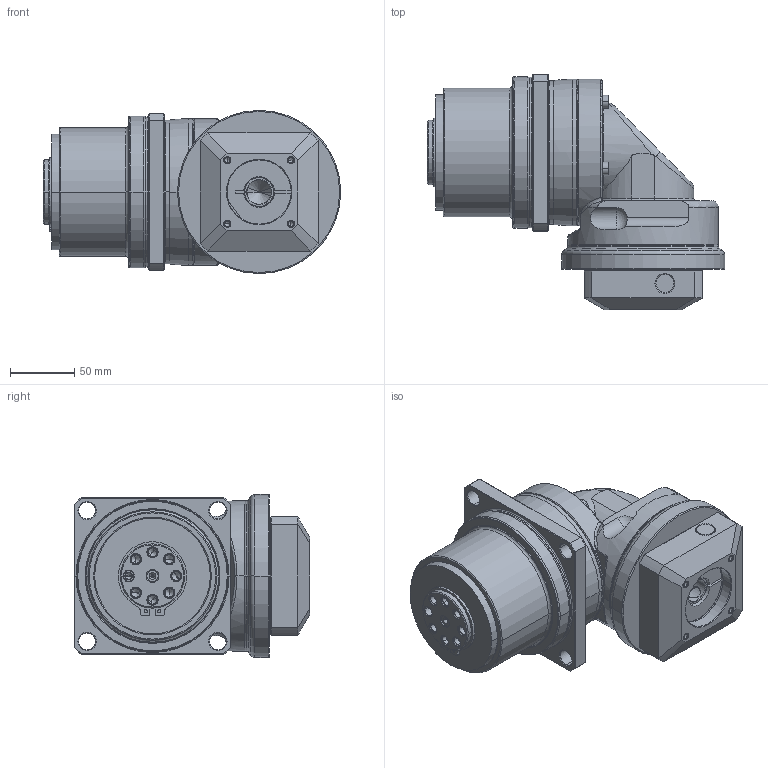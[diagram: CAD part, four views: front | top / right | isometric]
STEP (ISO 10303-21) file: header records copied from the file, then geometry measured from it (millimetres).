
FILE_DESCRIPTION((''),'2;1');
FILE_NAME('PLR120_1ST_19-P0411400101_ASM','2016-06-20T',('d00435'),(''),'PRO/ENGINEER BY PARAMETRIC TECHNOLOGY CORPORATION, 2008410','PRO/ENGINEER BY PARAMETRIC TECHNOLOGY CORPORATION, 2008410','');
FILE_SCHEMA(('CONFIG_CONTROL_DESIGN'));
Length unit declared in the file: millimetre
Products named in the file (10): P0272400001; P1353400001; P0366400001; 22802000029; P1017410001; P1350400001; P0411400101; P0503400008; P0713400001; PLR120_1ST_19-P0411400101_ASM
Assembly tree (9 placements, depth 2):
  PLR120_1ST_19-P0411400101_ASM
    P0272400001
    P1353400001
    P0366400001
    22802000029
    P1017410001
    P1350400001
    P0411400101
    P0503400008
    P0713400001
Bounding box: 231.5 x 183.5 x 127 mm (x, y, z)
Volume: 2011082.2 mm3; surface area: 311600.8 mm2
Topology: 10 solids, 27 shells, 587 faces, 1368 edges, 825 vertices
Faces by surface type: cylinder 203, cone 158, plane 120, torus 74, bspline 30, sphere 2
Entity records: 19787 total; most frequent: CARTESIAN_POINT 6209, DIRECTION 3006, ORIENTED_EDGE 2600, EDGE_CURVE 1334, AXIS2_PLACEMENT_3D 1271, VERTEX_POINT 825, CIRCLE 687, EDGE_LOOP 677
